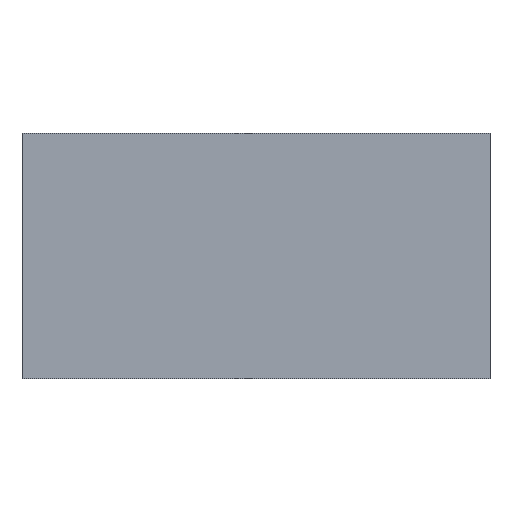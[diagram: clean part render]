
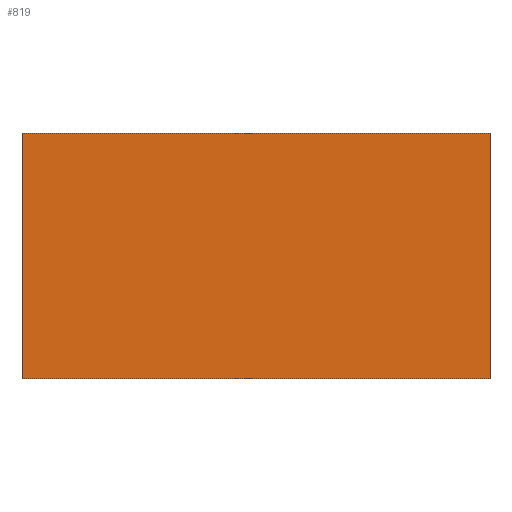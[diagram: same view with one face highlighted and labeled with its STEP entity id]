
A CAD part, top view. The second image highlights one B-rep face of the part: STEP entity #819.
In plain terms, the highlighted planar face has unit normal (0, 0, 1).
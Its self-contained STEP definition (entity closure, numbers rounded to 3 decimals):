
#819=ADVANCED_FACE($,(#1055),#3111,.T.);
#1055=FACE_OUTER_BOUND($,#1327,.T.);
#1327=EDGE_LOOP($,(#2272,#2273,#2274,#2275));
#2272=ORIENTED_EDGE($,*,*,#2745,.F.);
#2273=ORIENTED_EDGE($,*,*,#2744,.F.);
#2274=ORIENTED_EDGE($,*,*,#2743,.F.);
#2275=ORIENTED_EDGE($,*,*,#2742,.F.);
#2742=EDGE_CURVE($,#3034,#3035,#3242,.T.);
#2743=EDGE_CURVE($,#3035,#3036,#3243,.T.);
#2744=EDGE_CURVE($,#3036,#3037,#3244,.T.);
#2745=EDGE_CURVE($,#3037,#3034,#3245,.T.);
#3034=VERTEX_POINT($,#7250);
#3035=VERTEX_POINT($,#7251);
#3036=VERTEX_POINT($,#7252);
#3037=VERTEX_POINT($,#7253);
#3111=PLANE($,#3411);
#3242=B_SPLINE_CURVE_WITH_KNOTS($,1,(#7224,#7225),.UNSPECIFIED.,.F.,.F.,
(2,2),(0.,1100.),.UNSPECIFIED.);
#3243=B_SPLINE_CURVE_WITH_KNOTS($,1,(#7226,#7227),.UNSPECIFIED.,.F.,.F.,
(2,2),(0.,2100.),.UNSPECIFIED.);
#3244=B_SPLINE_CURVE_WITH_KNOTS($,1,(#7228,#7229),.UNSPECIFIED.,.F.,.F.,
(2,2),(0.,1100.),.UNSPECIFIED.);
#3245=B_SPLINE_CURVE_WITH_KNOTS($,1,(#7230,#7231),.UNSPECIFIED.,.F.,.F.,
(2,2),(0.,2100.),.UNSPECIFIED.);
#3411=AXIS2_PLACEMENT_3D($,#7245,#3488,$);
#3488=DIRECTION($,(0.,0.,1.));
#7224=CARTESIAN_POINT($,(0.,0.,745.));
#7225=CARTESIAN_POINT($,(0.,1100.,745.));
#7226=CARTESIAN_POINT($,(0.,1100.,745.));
#7227=CARTESIAN_POINT($,(2100.,1100.,745.));
#7228=CARTESIAN_POINT($,(2100.,1100.,745.));
#7229=CARTESIAN_POINT($,(2100.,0.,745.));
#7230=CARTESIAN_POINT($,(2100.,0.,745.));
#7231=CARTESIAN_POINT($,(0.,0.,745.));
#7245=CARTESIAN_POINT($,(0.,0.,745.));
#7250=CARTESIAN_POINT($,(0.,0.,745.));
#7251=CARTESIAN_POINT($,(0.,1100.,745.));
#7252=CARTESIAN_POINT($,(2100.,1100.,745.));
#7253=CARTESIAN_POINT($,(2100.,0.,745.));
